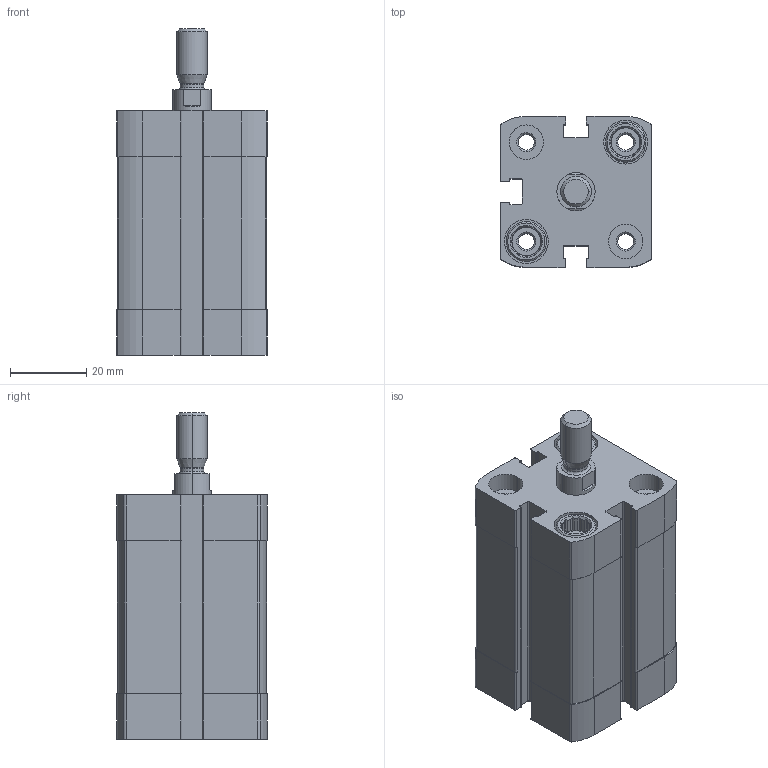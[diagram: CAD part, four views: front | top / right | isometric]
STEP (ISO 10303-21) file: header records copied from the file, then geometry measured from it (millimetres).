
FILE_DESCRIPTION (( 'STEP AP203' ), '1' );
FILE_NAME ('CCN25-25M.STEP', '2017-03-28T18:18:57', ( '' ), ( '' ), 'SwSTEP 2.0', 'SolidWorks 2016', '' );
FILE_SCHEMA (( 'CONFIG_CONTROL_DESIGN' ));
Length unit declared in the file: millimetre
Products named in the file (3): CCN-25----(Z); CCN-25-_(KS); CCN25-25M
Assembly tree (2 placements, depth 2):
  CCN25-25M
    CCN-25----(Z)
    CCN-25-_(KS)
Bounding box: 39.5 x 39.5 x 85.5 mm (x, y, z)
Volume: 74697.9 mm3; surface area: 28587.9 mm2
Topology: 2 solids, 2 shells, 409 faces, 1084 edges, 710 vertices
Faces by surface type: plane 231, cylinder 134, cone 40, bspline 4
Entity records: 13233 total; most frequent: CARTESIAN_POINT 2568, DIRECTION 2222, ORIENTED_EDGE 2168, EDGE_CURVE 1084, AXIS2_PLACEMENT_3D 828, VERTEX_POINT 710, VECTOR 566, LINE 566
